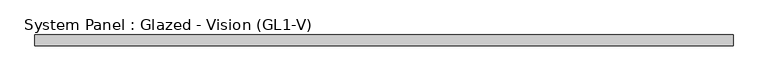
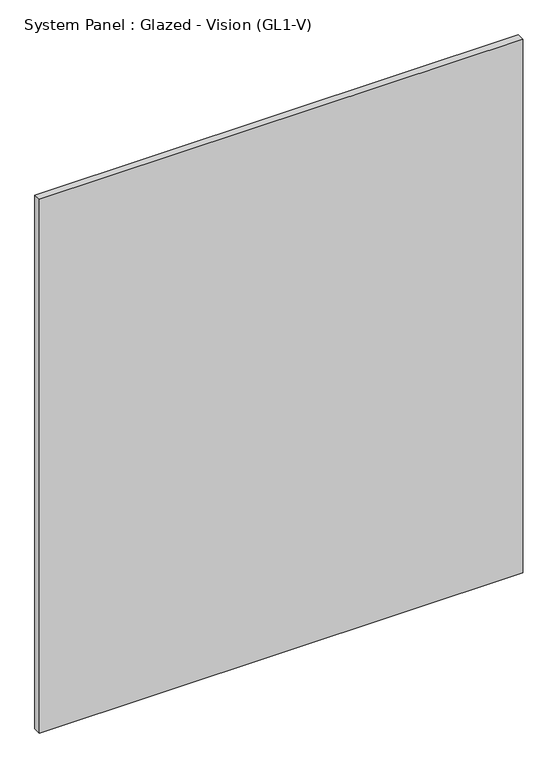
"""IFC4 building model written with IfcOpenShell, lengths in millimetres: plate geometry, System Panel : Glazed - Vision (GL1-V)."""

from ifc_helpers import new_model, si_unit, origin, origin_with_axes, place, context, project, spatial, polyline, outline, extrude, source, transform, mapped, element, save


def system_panel_glazed_vision_gl1_v_340e799c(model_context):
    return source(origin(), model_context, "Body", "SweptSolid", [
        extrude(outline(polyline([(815.975, -25.4), (-815.975, -25.4), (-815.975, 0.0), (815.975, 0.0), (815.975, -25.4)])), origin_with_axes(), (0.0, 0.0, 1.0), 1904.999999),
    ])


if __name__ == "__main__":
    model = new_model("IFC4")
    model_context = context("Model", 3, world=origin())
    ifc_project = project(units=[si_unit("LENGTHUNIT", "METRE", prefix="MILLI")], contexts=[model_context])
    site = spatial("IfcSite", under=ifc_project)
    building = spatial("IfcBuilding", under=site)
    placement = place(None, origin())
    system_panel_glazed_vision_gl1_v_shape = system_panel_glazed_vision_gl1_v_340e799c(model_context)
    element("IfcPlate", 1, ObjectType="System Panel : Glazed - Vision (GL1-V)", at=placement, inside=building, context=model_context, shape_type="MappedRepresentation", body=[
        mapped(system_panel_glazed_vision_gl1_v_shape, transform((0.0, 0.0, 0.0), x_axis=(1.0, 0.0, 0.0), y_axis=(0.0, 1.0, 0.0), z_axis=(0.0, 0.0, 1.0))),
    ])
    save(model, "model.ifc")
